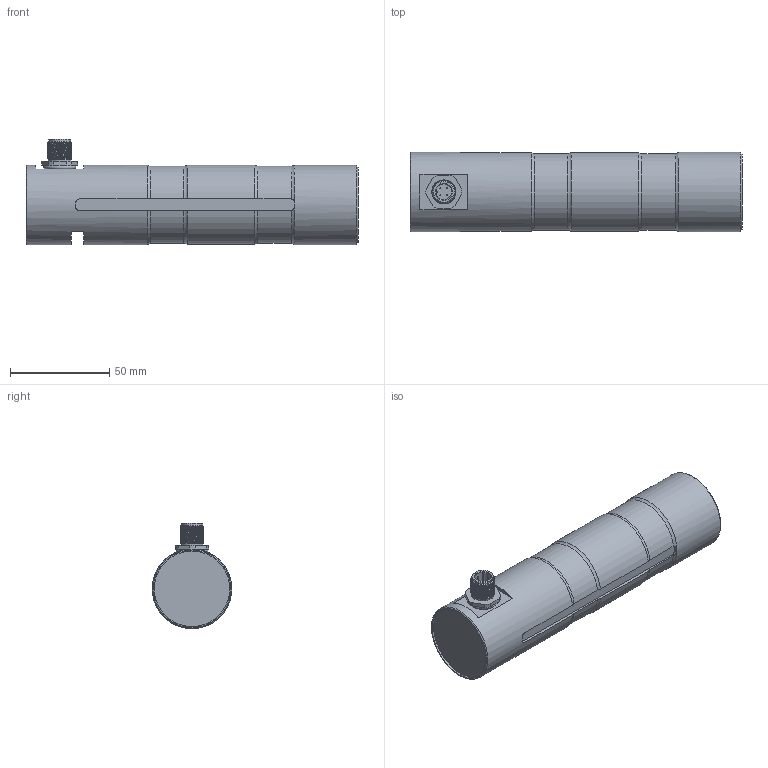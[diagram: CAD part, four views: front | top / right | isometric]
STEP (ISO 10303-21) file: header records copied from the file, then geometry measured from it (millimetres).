
FILE_DESCRIPTION(/* description */ ('Alibre Inc.'),/* implementation_level */ '2;1');
FILE_NAME(/* name */ 'export-44CD9815-8AD8-4994-9B13-D83B2697122E',/* time_stamp */ '2019-03-25T09:12:03+01:00',/* author */ (''),/* organization */ (''),/* preprocessor_version */ 'ST-DEVELOPER v17',/* originating_system */ 'Alibre',/* authorisation */ '');
FILE_SCHEMA (('CONFIG_CONTROL_DESIGN'));
Length unit declared in the file: centimetre
Products named in the file (3): ID_1
Bounding box: 167 x 40 x 52.86 mm (x, y, z)
Volume: 264065.5 mm3; surface area: 99490.4 mm2
Topology: 6 solids, 7 shells, 153 faces, 354 edges, 223 vertices
Faces by surface type: plane 62, cylinder 50, bspline 23, torus 10, cone 8
Full cylindrical faces by diameter (mm): 0.5 x8, 8 x2, 10 x2, 11 x1, 11.5 x1, 12 x1, 13 x2, 38 x1, 40 x2
Entity records: 14569 total; most frequent: CARTESIAN_POINT 11544, ORIENTED_EDGE 630, DIRECTION 387, EDGE_CURVE 308, VERTEX_POINT 206, EDGE_LOOP 202, FACE_BOUND 202, AXIS2_PLACEMENT_3D 172
